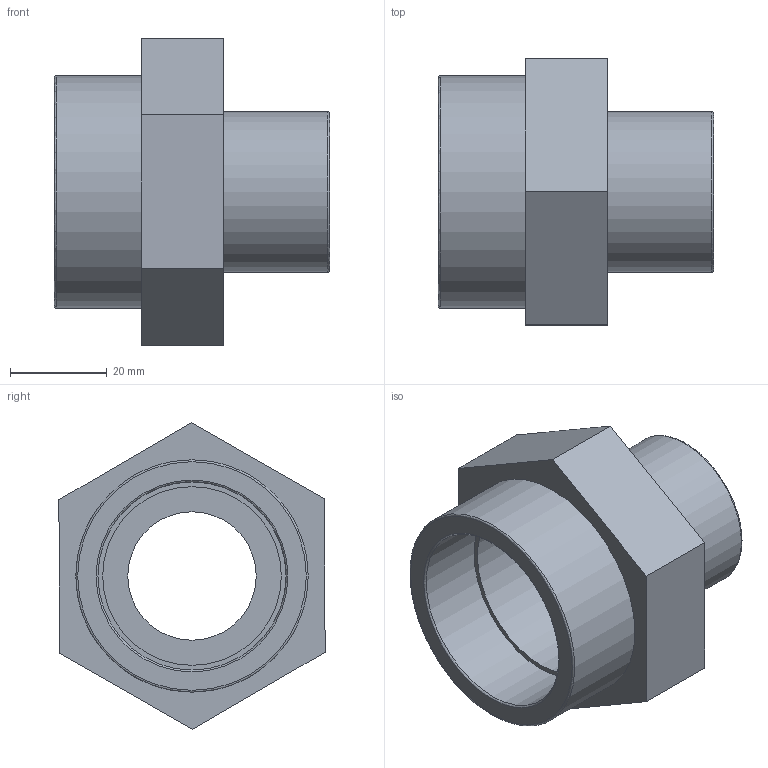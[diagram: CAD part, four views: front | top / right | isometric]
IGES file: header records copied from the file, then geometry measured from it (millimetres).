
Global section: file name: 052201010013.ipt; native system: Autodesk Inventor 2015; preprocessor: unknown; author: KIM; date: 20171207.165418; units: millimetre
Bounding box: 57 x 55.11 x 63.51 mm (x, y, z)
Volume: 47085.2 mm3; surface area: 18159.7 mm2
Topology: 1 solids, 1 shells, 21 faces, 55 edges, 40 vertices
Faces by surface type: plane 12, revolution 7, cylinder 2
Full cylindrical faces by diameter (mm): 33.249 x1, 48.106 x1
